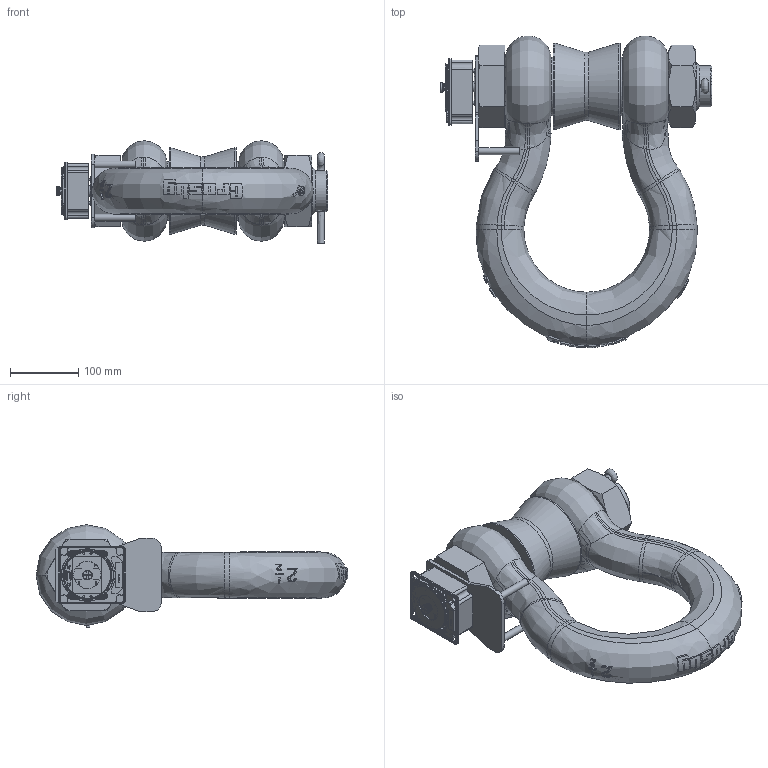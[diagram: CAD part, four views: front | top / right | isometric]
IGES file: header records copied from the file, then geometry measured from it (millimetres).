
Global section: file name: WLS85T; native system: Autodesk Inventor 2020; preprocessor: unknown; author: Achacko; date: 20191024.145621; units: millimetre
Bounding box: 398.22 x 456.9 x 150.37 mm (x, y, z)
Volume: 6494105.6 mm3; surface area: 626016.4 mm2
Topology: 26 solids, 39 shells, 6373 faces, 17640 edges, 11469 vertices
Faces by surface type: bspline 6373
